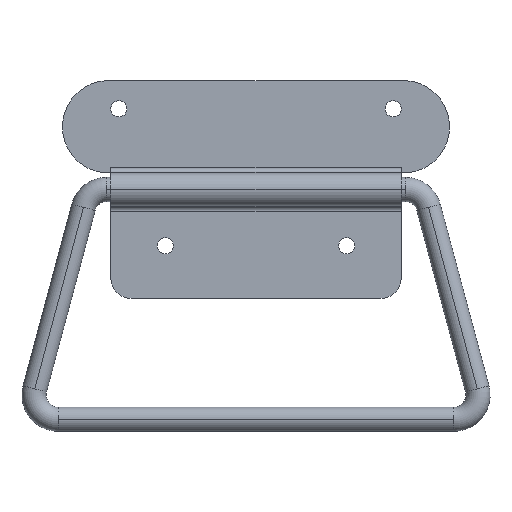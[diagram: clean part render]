
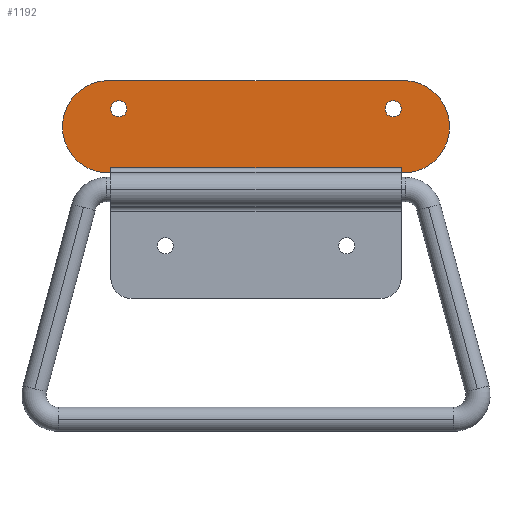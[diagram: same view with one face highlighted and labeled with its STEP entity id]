
A CAD part, left-side view. The second image highlights one B-rep face of the part: STEP entity #1192.
In plain terms, the highlighted planar face has unit normal (-1, 0, 0).
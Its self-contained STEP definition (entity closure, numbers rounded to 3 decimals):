
#870=CARTESIAN_POINT('',(0.,-82.,-4.45));
#871=VERTEX_POINT('',#870);
#880=CARTESIAN_POINT('',(0.0,-70.0,-15.9));
#881=VERTEX_POINT('',#880);
#882=CARTESIAN_POINT('',(0.0,-70.538,-4.45));
#883=DIRECTION('',(-1.0,0.0,0.0));
#884=DIRECTION('',(0.0,1.0,0.0));
#885=AXIS2_PLACEMENT_3D('',#882,#883,#884);
#886=CIRCLE('',#885,11.463);
#887=EDGE_CURVE('',#881,#871,#886,.T.);
#996=CARTESIAN_POINT('',(0.0,-70.0,0.));
#997=VERTEX_POINT('',#996);
#1006=CARTESIAN_POINT('',(0.,-66.0,0.));
#1007=VERTEX_POINT('',#1006);
#1008=CARTESIAN_POINT('',(0.0,-68.0,0.));
#1009=DIRECTION('',(1.0,0.0,0.0));
#1010=DIRECTION('',(0.0,-1.0,0.0));
#1011=AXIS2_PLACEMENT_3D('',#1008,#1009,#1010);
#1012=CIRCLE('',#1011,2.0);
#1013=EDGE_CURVE('',#1007,#997,#1012,.T.);
#1038=CARTESIAN_POINT('',(0.0,-2.0,0.0));
#1039=VERTEX_POINT('',#1038);
#1048=CARTESIAN_POINT('',(0.,2.0,0.));
#1049=VERTEX_POINT('',#1048);
#1050=CARTESIAN_POINT('',(0.0,0.0,0.0));
#1051=DIRECTION('',(1.0,0.0,0.0));
#1052=DIRECTION('',(0.0,-1.0,0.0));
#1053=AXIS2_PLACEMENT_3D('',#1050,#1051,#1052);
#1054=CIRCLE('',#1053,2.0);
#1055=EDGE_CURVE('',#1049,#1039,#1054,.T.);
#1082=CARTESIAN_POINT('',(0.,14.,-4.45));
#1083=VERTEX_POINT('',#1082);
#1099=CARTESIAN_POINT('',(0.0,2.,-15.9));
#1100=VERTEX_POINT('',#1099);
#1107=CARTESIAN_POINT('',(0.0,2.538,-4.45));
#1108=DIRECTION('',(-1.0,0.0,0.0));
#1109=DIRECTION('',(0.0,-1.0,0.0));
#1110=AXIS2_PLACEMENT_3D('',#1107,#1108,#1109);
#1111=CIRCLE('',#1110,11.463);
#1112=EDGE_CURVE('',#1083,#1100,#1111,.T.);
#1117=CARTESIAN_POINT('',(0.,-82.5,7.));
#1118=DIRECTION('',(-1.0,0.0,0.0));
#1119=DIRECTION('',(0.0,0.0,1.0));
#1120=AXIS2_PLACEMENT_3D('',#1117,#1118,#1119);
#1121=PLANE('',#1120);
#1122=CARTESIAN_POINT('',(0.,3.075,7.0));
#1123=VERTEX_POINT('',#1122);
#1124=CARTESIAN_POINT('',(0.0,2.538,-4.45));
#1125=DIRECTION('',(-1.0,0.0,0.0));
#1126=DIRECTION('',(0.0,-1.0,0.0));
#1127=AXIS2_PLACEMENT_3D('',#1124,#1125,#1126);
#1128=CIRCLE('',#1127,11.463);
#1129=EDGE_CURVE('',#1123,#1083,#1128,.T.);
#1130=ORIENTED_EDGE('',*,*,#1129,.T.);
#1131=ORIENTED_EDGE('',*,*,#1112,.T.);
#1132=CARTESIAN_POINT('',(0.0,2.0,-14.6));
#1133=VERTEX_POINT('',#1132);
#1134=CARTESIAN_POINT('',(0.0,2.0,-14.6));
#1135=DIRECTION('',(0.0,0.0,-1.0));
#1136=VECTOR('',#1135,1.3);
#1137=LINE('',#1134,#1136);
#1138=EDGE_CURVE('',#1133,#1100,#1137,.T.);
#1139=ORIENTED_EDGE('',*,*,#1138,.F.);
#1140=CARTESIAN_POINT('',(0.0,-70.0,-14.6));
#1141=VERTEX_POINT('',#1140);
#1142=CARTESIAN_POINT('',(0.0,-70.0,-14.6));
#1143=DIRECTION('',(0.0,1.0,0.0));
#1144=VECTOR('',#1143,72.0);
#1145=LINE('',#1142,#1144);
#1146=EDGE_CURVE('',#1141,#1133,#1145,.T.);
#1147=ORIENTED_EDGE('',*,*,#1146,.F.);
#1148=CARTESIAN_POINT('',(0.0,-70.0,-15.9));
#1149=DIRECTION('',(0.0,0.0,1.0));
#1150=VECTOR('',#1149,1.3);
#1151=LINE('',#1148,#1150);
#1152=EDGE_CURVE('',#881,#1141,#1151,.T.);
#1153=ORIENTED_EDGE('',*,*,#1152,.F.);
#1154=ORIENTED_EDGE('',*,*,#887,.T.);
#1155=CARTESIAN_POINT('',(0.,-71.075,7.));
#1156=VERTEX_POINT('',#1155);
#1157=CARTESIAN_POINT('',(0.0,-70.538,-4.45));
#1158=DIRECTION('',(-1.0,0.0,0.0));
#1159=DIRECTION('',(0.0,1.0,0.0));
#1160=AXIS2_PLACEMENT_3D('',#1157,#1158,#1159);
#1161=CIRCLE('',#1160,11.463);
#1162=EDGE_CURVE('',#871,#1156,#1161,.T.);
#1163=ORIENTED_EDGE('',*,*,#1162,.T.);
#1164=CARTESIAN_POINT('',(0.,-71.075,7.));
#1165=DIRECTION('',(0.0,1.0,0.0));
#1166=VECTOR('',#1165,74.15);
#1167=LINE('',#1164,#1166);
#1168=EDGE_CURVE('',#1156,#1123,#1167,.T.);
#1169=ORIENTED_EDGE('',*,*,#1168,.T.);
#1170=EDGE_LOOP('',(#1130,#1131,#1139,#1147,#1153,#1154,#1163,#1169));
#1171=FACE_OUTER_BOUND('',#1170,.T.);
#1172=CARTESIAN_POINT('',(0.0,0.0,0.0));
#1173=DIRECTION('',(1.0,0.0,0.0));
#1174=DIRECTION('',(0.0,-1.0,0.0));
#1175=AXIS2_PLACEMENT_3D('',#1172,#1173,#1174);
#1176=CIRCLE('',#1175,2.0);
#1177=EDGE_CURVE('',#1039,#1049,#1176,.T.);
#1178=ORIENTED_EDGE('',*,*,#1177,.T.);
#1179=ORIENTED_EDGE('',*,*,#1055,.T.);
#1180=EDGE_LOOP('',(#1178,#1179));
#1181=FACE_BOUND('',#1180,.T.);
#1182=CARTESIAN_POINT('',(0.0,-68.0,0.));
#1183=DIRECTION('',(1.0,0.0,0.0));
#1184=DIRECTION('',(0.0,-1.0,0.0));
#1185=AXIS2_PLACEMENT_3D('',#1182,#1183,#1184);
#1186=CIRCLE('',#1185,2.0);
#1187=EDGE_CURVE('',#997,#1007,#1186,.T.);
#1188=ORIENTED_EDGE('',*,*,#1187,.T.);
#1189=ORIENTED_EDGE('',*,*,#1013,.T.);
#1190=EDGE_LOOP('',(#1188,#1189));
#1191=FACE_BOUND('',#1190,.T.);
#1192=ADVANCED_FACE('',(#1171,#1181,#1191),#1121,.T.);
